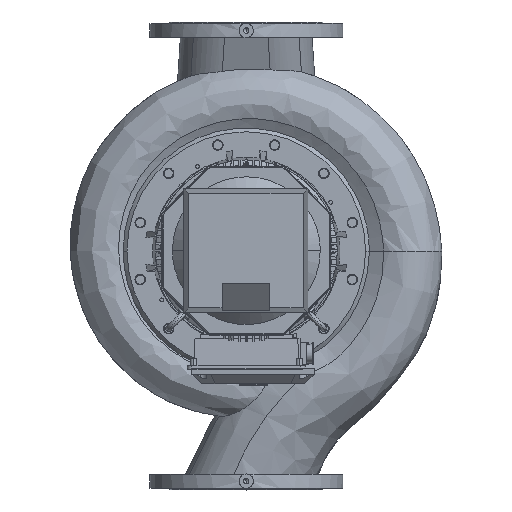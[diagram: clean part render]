
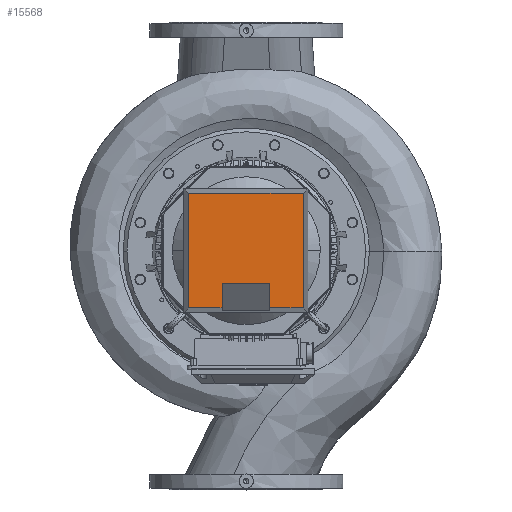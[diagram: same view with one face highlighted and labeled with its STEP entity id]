
A CAD part, top view. The second image highlights one B-rep face of the part: STEP entity #15568.
In plain terms, the highlighted planar face has unit normal (0, 0, 1) as drawn and (0, 1, 0) by its records, which use the part's own axes.
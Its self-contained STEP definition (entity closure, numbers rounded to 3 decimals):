
#15568=ADVANCED_FACE('',(#30123),#30124,.T.);
#15578=EDGE_CURVE('',#30139,#30136,#30140,.T.);
#30123=FACE_OUTER_BOUND('',#74348,.T.);
#30124=PLANE('',#74349);
#30136=VERTEX_POINT('',#74362);
#30139=VERTEX_POINT('',#74367);
#30140=LINE('',#74368,#74369);
#74348=EDGE_LOOP('',(#87339,#87340,#87341,#87342,#87343,#87344,#87345,#87346));
#74349=AXIS2_PLACEMENT_3D('',#87347,#87348,#87349);
#74362=CARTESIAN_POINT('',(-50.0,90.0,199.485));
#74367=CARTESIAN_POINT('',(-50.0,90.0,250.0));
#74368=CARTESIAN_POINT('',(-50.0,90.0,127.834));
#74369=VECTOR('',#87375,1.0);
#87339=ORIENTED_EDGE('',*,*,#90440,.T.);
#87340=ORIENTED_EDGE('',*,*,#90446,.F.);
#87341=ORIENTED_EDGE('',*,*,#90454,.F.);
#87342=ORIENTED_EDGE('',*,*,#90456,.F.);
#87343=ORIENTED_EDGE('',*,*,#90448,.F.);
#87344=ORIENTED_EDGE('',*,*,#90442,.F.);
#87345=ORIENTED_EDGE('',*,*,#15578,.T.);
#87346=ORIENTED_EDGE('',*,*,#90436,.T.);
#87347=CARTESIAN_POINT('',(0.0,90.0,0.0));
#87348=DIRECTION('',(0.0,1.0,-0.0));
#87349=DIRECTION('',(-1.0,0.0,0.0));
#87375=DIRECTION('',(0.0,-0.0,-1.0));
#90436=EDGE_CURVE('',#30136,#94366,#94369,.T.);
#90440=EDGE_CURVE('',#94366,#94372,#94374,.T.);
#90442=EDGE_CURVE('',#30139,#94376,#94377,.T.);
#90446=EDGE_CURVE('',#94382,#94372,#94384,.T.);
#90448=EDGE_CURVE('',#94376,#94386,#94387,.T.);
#90454=EDGE_CURVE('',#94392,#94382,#94394,.T.);
#90456=EDGE_CURVE('',#94386,#94392,#94396,.T.);
#94366=VERTEX_POINT('',#105244);
#94369=LINE('',#105248,#105249);
#94372=VERTEX_POINT('',#105253);
#94374=LINE('',#105256,#105257);
#94376=VERTEX_POINT('',#105259);
#94377=LINE('',#105260,#105261);
#94382=VERTEX_POINT('',#105268);
#94384=LINE('',#105271,#105272);
#94386=VERTEX_POINT('',#105274);
#94387=LINE('',#105275,#105276);
#94392=VERTEX_POINT('',#105284);
#94394=LINE('',#105287,#105288);
#94396=LINE('',#105290,#105291);
#105244=CARTESIAN_POINT('',(50.0,90.0,199.485));
#105248=CARTESIAN_POINT('',(-25.0,90.0,199.485));
#105249=VECTOR('',#106489,1.0);
#105253=CARTESIAN_POINT('',(50.0,90.0,250.0));
#105256=CARTESIAN_POINT('',(50.0,90.0,127.834));
#105257=VECTOR('',#106492,1.0);
#105259=CARTESIAN_POINT('',(-120.0,90.0,250.0));
#105260=CARTESIAN_POINT('',(65.0,90.0,250.0));
#105261=VECTOR('',#106493,1.0);
#105268=CARTESIAN_POINT('',(120.0,90.0,250.0));
#105271=CARTESIAN_POINT('',(65.0,90.0,250.0));
#105272=VECTOR('',#106497,1.0);
#105274=CARTESIAN_POINT('',(-120.0,90.0,10.0));
#105275=CARTESIAN_POINT('',(-120.0,90.0,0.0));
#105276=VECTOR('',#106498,1.0);
#105284=CARTESIAN_POINT('',(120.0,90.0,10.0));
#105287=CARTESIAN_POINT('',(120.0,90.0,0.0));
#105288=VECTOR('',#106503,1.0);
#105290=CARTESIAN_POINT('',(65.0,90.0,10.0));
#105291=VECTOR('',#106504,1.0);
#106489=DIRECTION('',(1.0,0.0,0.0));
#106492=DIRECTION('',(-0.0,0.0,1.0));
#106493=DIRECTION('',(-1.0,0.0,-0.0));
#106497=DIRECTION('',(-1.0,0.0,-0.0));
#106498=DIRECTION('',(-0.0,-0.0,-1.0));
#106503=DIRECTION('',(-0.0,0.0,1.0));
#106504=DIRECTION('',(1.0,-0.0,-0.0));
